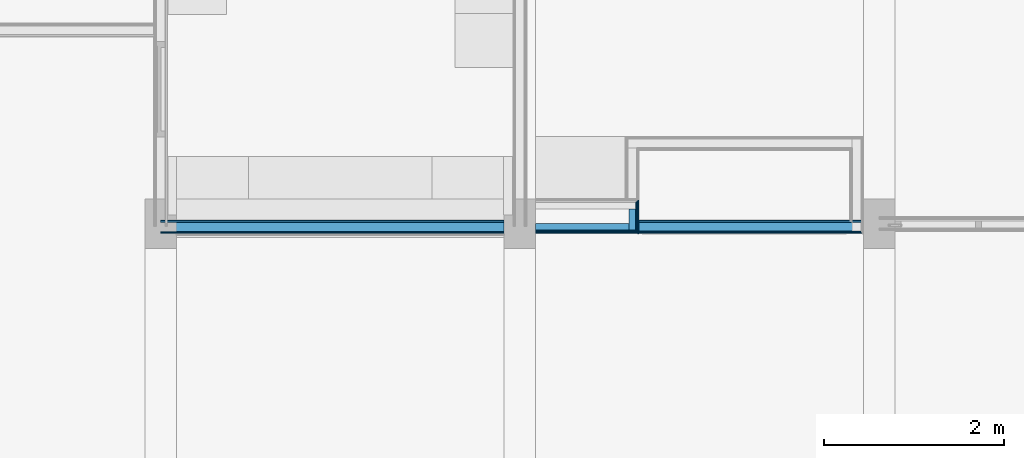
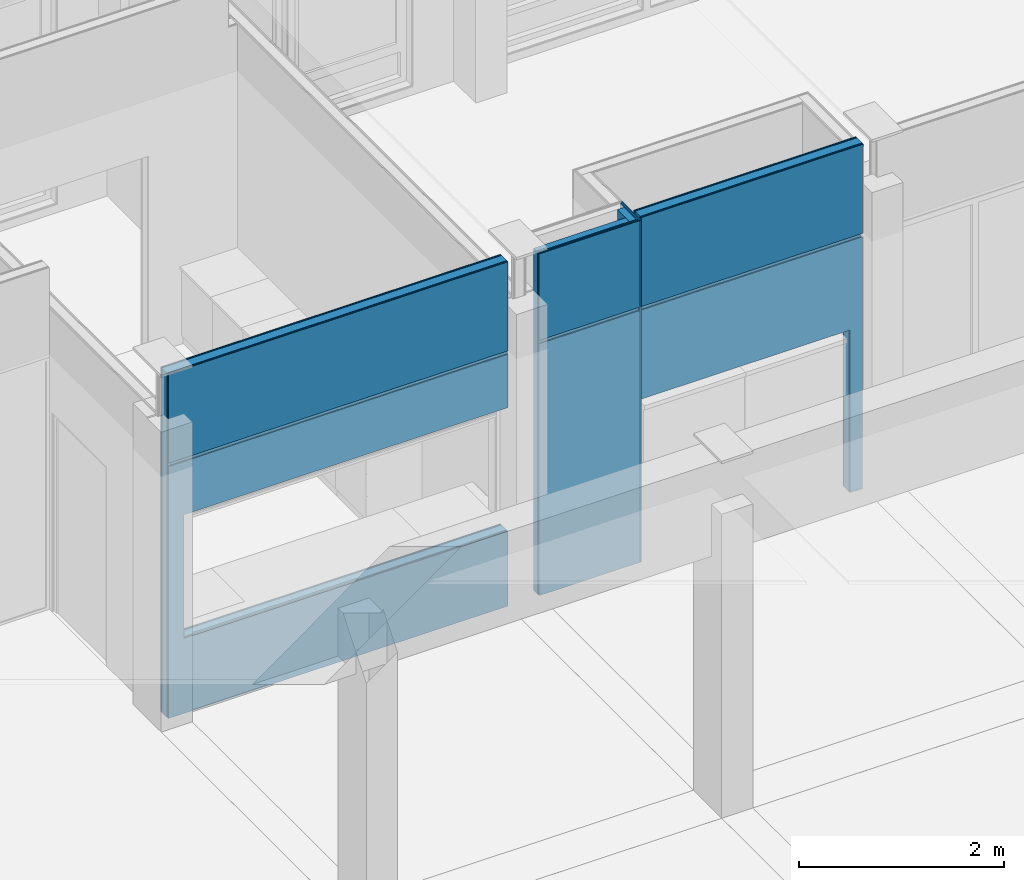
# One storey, part 58 of 109: 18 building element parts, 2 openings, 4 elements without a shape of their own.
"""IFC2X3 building model written with IfcOpenShell, lengths in millimetres."""

from ifc_helpers import new_model, entity, si_unit, converted_unit, derived_unit, money_unit, direction, frame, origin_with_axes, place, context, subcontext, project, spatial, faceted_brep, material, type_object, element, aggregate, save


model = new_model("IFC2X3")

# Units and contexts
model_context = context("Model", 3, precision=0.01, world=origin_with_axes(), true_north=direction((0.0, 1.0)))
body_context = subcontext(model_context, "Body", "Model", "MODEL_VIEW")
ifc_project = project(units=[si_unit("LENGTHUNIT", "METRE", prefix="MILLI"), si_unit("AREAUNIT", "SQUARE_METRE"), si_unit("VOLUMEUNIT", "CUBIC_METRE"), converted_unit("PLANEANGLEUNIT", "DEGREE", entity("IfcPlaneAngleMeasure", 0.0174532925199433), si_unit("PLANEANGLEUNIT", "RADIAN"), dimensions=[0, 0, 0, 0, 0, 0, 0]), money_unit("EUR"), converted_unit("TIMEUNIT", "Year", entity("IfcTimeMeasure", 31557600.0), si_unit("TIMEUNIT", "SECOND"), dimensions=[0, 0, 1, 0, 0, 0, 0]), si_unit("MASSUNIT", "GRAM", prefix="KILO"), si_unit("THERMODYNAMICTEMPERATUREUNIT", "DEGREE_CELSIUS"), si_unit("LUMINOUSINTENSITYUNIT", "LUMEN"), si_unit("ENERGYUNIT", "JOULE", prefix="MEGA"), derived_unit("THERMALCONDUCTANCEUNIT", [(si_unit("POWERUNIT", "WATT"), 1), (si_unit("LENGTHUNIT", "METRE"), -1), (si_unit("THERMODYNAMICTEMPERATUREUNIT", "KELVIN"), -1)]), derived_unit("SPECIFICHEATCAPACITYUNIT", [(si_unit("ENERGYUNIT", "JOULE"), 1), (si_unit("MASSUNIT", "GRAM", prefix="KILO"), -1), (si_unit("THERMODYNAMICTEMPERATUREUNIT", "KELVIN"), -1)]), derived_unit("MASSDENSITYUNIT", [(si_unit("MASSUNIT", "GRAM", prefix="KILO"), 1), (si_unit("VOLUMEUNIT", "CUBIC_METRE"), -1)])], contexts=[model_context])

# Site, building, storey
site_placement = place(None, origin_with_axes())
site = spatial("IfcSite", under=ifc_project, at=site_placement, Name="<site naam>", CompositionType="ELEMENT")
building_placement = place(site_placement, origin_with_axes())
building = spatial("IfcBuilding", under=site, at=building_placement, Name="<Naam gebouw>", CompositionType="ELEMENT")
storey_placement = place(building_placement, origin_with_axes())
storey = spatial("IfcBuildingStorey", under=building, at=storey_placement, Name="00 Begane grond", CompositionType="ELEMENT", Elevation=0.0)

# Wall, opening, building element parts
wall_type_1 = type_object("IfcWallType", Name="MS-01 GF 150 ECO DGS/2.100.2.A 150", PredefinedType="NOTDEFINED")
wall_1_placement = place(storey_placement, frame((24000.00000000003, 11964.67036517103, 0.0), z_axis=(0.0, 0.0, 1.0), x_axis=(1.0, 0.0, 0.0)))
wall_1 = element("IfcWall", 1, at=wall_1_placement, inside=storey, type_object=wall_type_1, Name="22_Binnenwand_MS-01")
opening_1_placement = place(wall_1_placement, frame((2000.257627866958, 0.0, 894.0000000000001), z_axis=(0.0, 0.0, 1.0), x_axis=(1.0, 0.0, 0.0)))
element("IfcOpeningElement", 2, at=opening_1_placement, cuts=wall_1, Name="22__305", context=body_context, shape_type="Brep", body=[
    faceted_brep([(1825.257627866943, 75.99999999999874, 1471.0), (1825.257627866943, 75.99999999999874, 0.0), (-1825.257627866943, 75.99999999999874, 0.0), (-1825.257627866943, 75.99999999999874, 1471.0), (1825.257627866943, -75.99999999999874, 1471.0), (1825.257627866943, -75.99999999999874, 0.0), (-1825.257627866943, -75.99999999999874, 0.0), (-1825.257627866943, -75.99999999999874, 1471.0)], [[[0, 1, 2, 3]], [[4, 5, 1, 0]], [[5, 6, 2, 1]], [[6, 7, 3, 2]], [[7, 4, 0, 3]], [[6, 5, 4, 7]]]),
])
ifc_material_1 = material(Name="gipsplaat")
building_element_part_1_placement = place(wall_1_placement, origin_with_axes())
building_element_part_1 = element("IfcBuildingElementPart", 3, at=building_element_part_1_placement, material=ifc_material_1, Name="gipsplaat", context=body_context, shape_type="Brep", body=[
    faceted_brep([(3825.00000000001, 62.5, 3750.0), (3825.00000000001, 75.00000000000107, 3750.0), (3825.000000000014, 75.00000000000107, 4100.0), (3825.000000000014, 62.5, 4100.0), (175.0000000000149, 75.00000000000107, 3750.0), (175.0000000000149, 62.5, 3750.0), (175.0000000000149, 75.00000000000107, 3185.0), (3825.00000000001, 75.00000000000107, 3185.0), (3825.000000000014, 75.00000000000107, 0.0), (0.0, 74.99999999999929, 0.0), (0.0, 75.00000000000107, 4100.0), (0.0, 62.5, 4100.0), (0.0, 62.5, 0.0), (3825.000000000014, 62.5, 0.0), (3825.00000000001, 62.5, 3185.0), (175.0000000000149, 62.5, 3185.0)], [[[0, 1, 2, 3]], [[4, 1, 0, 5]], [[6, 7, 8, 9, 10, 2, 1, 4]], [[11, 3, 2, 10]], [[5, 0, 3, 11, 12, 13, 14, 15]], [[6, 4, 5, 15]], [[14, 7, 6, 15]], [[7, 14, 13, 8]], [[9, 8, 13, 12]], [[12, 11, 10, 9]]]),
])
building_element_part_2_placement = place(wall_1_placement, origin_with_axes())
building_element_part_2 = element("IfcBuildingElementPart", 4, at=building_element_part_2_placement, material=ifc_material_1, Name="gipsplaat", context=body_context, shape_type="Brep", body=[
    faceted_brep([(3825.00000000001, 50.00000000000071, 3750.0), (3825.00000000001, 62.5, 3750.0), (3825.000000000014, 62.5, 4100.0), (3825.000000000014, 50.00000000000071, 4100.0), (175.0000000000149, 62.5, 3750.0), (175.0000000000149, 50.00000000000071, 3750.0), (175.0000000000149, 62.5, 3185.0), (3825.00000000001, 62.5, 3185.0), (3825.000000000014, 62.5, 0.0), (0.0, 62.5, 0.0), (0.0, 62.5, 4100.0), (0.0, 50.00000000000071, 4100.0), (0.0, 50.00000000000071, 0.0), (3825.000000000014, 50.00000000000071, 0.0), (3825.00000000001, 50.00000000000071, 3185.0), (175.0000000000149, 50.00000000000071, 3185.0)], [[[0, 1, 2, 3]], [[4, 1, 0, 5]], [[6, 7, 8, 9, 10, 2, 1, 4]], [[11, 3, 2, 10]], [[5, 0, 3, 11, 12, 13, 14, 15]], [[6, 4, 5, 15]], [[14, 7, 6, 15]], [[7, 14, 13, 8]], [[9, 8, 13, 12]], [[12, 11, 10, 9]]]),
])
ifc_material_2 = material(Name="isolatie_steenwol LSW")
building_element_part_3_placement = place(wall_1_placement, origin_with_axes())
building_element_part_3 = element("IfcBuildingElementPart", 5, at=building_element_part_3_placement, material=ifc_material_2, Name="isolatie_steenwol LSW", context=body_context, shape_type="Brep", body=[
    faceted_brep([(3825.000000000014, -34.14980728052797, 3.000000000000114), (3825.000000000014, -34.14980728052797, 0.0), (3825.000000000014, 50.00000000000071, 0.0), (3825.00000000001, 50.00000000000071, 3185.0), (3825.00000000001, -39.67034672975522, 3185.0), (3825.00000000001, -39.67034672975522, 3750.0), (3825.00000000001, 50.00000000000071, 3750.0), (3825.000000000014, 50.00000000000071, 4100.0), (3825.000000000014, -49.99999999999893, 4100.0), (3825.000000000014, -49.99999999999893, 3.000000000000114), (0.0, -34.14980728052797, 3.000000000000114), (0.0, -34.14980728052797, 0.0), (0.0, 50.00000000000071, 0.0), (175.0000000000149, 50.00000000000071, 3185.0), (0.0, 50.00000000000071, 4100.0), (175.0000000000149, 50.00000000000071, 3750.0), (175.0000000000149, -39.67034672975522, 3185.0), (175.0000000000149, -39.67034672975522, 3750.0), (0.0, -49.99999999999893, 4100.0), (0.0, -50.00000000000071, 3.000000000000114)], [[[0, 1, 2, 3, 4, 5, 6, 7, 8, 9]], [[1, 0, 10, 11]], [[1, 11, 12, 2]], [[13, 3, 2, 12, 14, 7, 6, 15]], [[4, 3, 13, 16]], [[5, 4, 16, 17]], [[15, 6, 5, 17]], [[18, 8, 7, 14]], [[19, 9, 8, 18]], [[0, 9, 19, 10]], [[10, 19, 18, 14, 12, 11]], [[13, 15, 17, 16]]]),
])
building_element_part_4_placement = place(wall_1_placement, origin_with_axes())
building_element_part_4 = element("IfcBuildingElementPart", 6, at=building_element_part_4_placement, material=ifc_material_1, Name="gipsplaat", context=body_context, shape_type="Brep", body=[
    faceted_brep([(3825.000000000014, -74.99999999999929, 3.000000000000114), (3825.000000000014, -62.5, 3.000000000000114), (3825.000000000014, -62.5, 3000.0), (3825.000000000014, -74.99999999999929, 3000.0), (0.0, -62.5, 3.000000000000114), (0.0, -74.99999999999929, 3.000000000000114), (0.0, -62.5, 3000.0), (0.0, -74.99999999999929, 3000.0)], [[[0, 1, 2, 3]], [[4, 1, 0, 5]], [[1, 4, 6, 2]], [[3, 2, 6, 7]], [[5, 0, 3, 7]], [[4, 5, 7, 6]]]),
    faceted_brep([(3825.000000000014, -74.99999999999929, 3040.0), (3825.000000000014, -62.5, 3040.0), (3825.000000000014, -62.5, 4100.0), (3825.000000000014, -74.99999999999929, 4100.0), (0.0, -62.5, 3040.0), (0.0, -74.99999999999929, 3040.0), (0.0, -62.5, 4100.0), (0.0, -74.99999999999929, 4100.0)], [[[0, 1, 2, 3]], [[4, 1, 0, 5]], [[1, 4, 6, 2]], [[7, 3, 2, 6]], [[5, 0, 3, 7]], [[4, 5, 7, 6]]]),
])
building_element_part_5_placement = place(wall_1_placement, origin_with_axes())
building_element_part_5 = element("IfcBuildingElementPart", 7, at=building_element_part_5_placement, material=ifc_material_1, Name="gipsplaat", context=body_context, shape_type="Brep", body=[
    faceted_brep([(3825.000000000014, -62.5, 3.000000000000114), (3825.000000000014, -49.99999999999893, 3.000000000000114), (3825.000000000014, -49.99999999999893, 4100.0), (3825.000000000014, -62.5, 4100.0), (0.0, -50.00000000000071, 3.000000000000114), (0.0, -62.5, 3.000000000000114), (0.0, -49.99999999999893, 4100.0), (0.0, -62.5, 4100.0)], [[[0, 1, 2, 3]], [[4, 1, 0, 5]], [[1, 4, 6, 2]], [[7, 3, 2, 6]], [[5, 0, 3, 7]], [[4, 5, 7, 6]]]),
])
aggregate(wall_1, [building_element_part_1, building_element_part_2, building_element_part_3, building_element_part_4, building_element_part_5])

# Wall, building element parts
wall_type_2 = type_object("IfcWallType", Name="MS-04 GF 138 V/100.3.A 113", PredefinedType="NOTDEFINED")
wall_2_placement = place(storey_placement, frame((29324.86879634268, 12275.00000000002, 0.0), z_axis=(0.0, 0.0, 1.0), x_axis=(0.0, -1.0, 0.0)))
wall_2 = element("IfcWall", 8, at=wall_2_placement, inside=storey, type_object=wall_type_2, Name="22_Binnenwand_MS-04")
building_element_part_6_placement = place(wall_2_placement, origin_with_axes())
building_element_part_6 = element("IfcBuildingElementPart", 9, at=building_element_part_6_placement, material=ifc_material_1, Name="gipsplaat", context=body_context, shape_type="Brep", body=[
    faceted_brep([(344.4794421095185, 0.0, 3.000000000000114), (344.4794421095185, 0.0, 0.0), (12.49999999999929, 0.0, 0.0), (12.49999999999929, 0.0, 1900.0), (235.3296348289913, 0.0, 1900.0), (385.3296348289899, 0.0, 1900.0), (385.3296348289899, 0.0, 3.000000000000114), (344.4794421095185, -12.49999999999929, 3.000000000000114), (344.4794421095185, -12.49999999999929, 0.0), (12.49999999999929, -12.49999999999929, 0.0), (12.49999999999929, -0.3816610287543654, 1900.0), (12.49999999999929, -12.49999999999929, 4070.0), (12.49999999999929, 0.0, 4070.0), (12.49999999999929, 0.0, 1940.0), (12.49999999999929, -0.3816610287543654, 1940.0), (235.3296348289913, -0.3816610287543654, 1900.0), (385.3296348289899, -0.3816610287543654, 1900.0), (385.3296348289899, -12.49999999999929, 3.000000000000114), (385.3296348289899, -0.3816610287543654, 1940.0), (385.3296348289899, 0.0, 1940.0), (385.3296348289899, 0.0, 4070.0), (385.3296348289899, -12.49999999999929, 4070.0), (235.3296348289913, 0.0, 1940.0), (235.3296348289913, -0.3816610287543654, 1940.0)], [[[0, 1, 2, 3, 4, 5, 6]], [[1, 0, 7, 8]], [[1, 8, 9, 2]], [[10, 3, 2, 9, 11, 12, 13, 14]], [[15, 4, 3, 10]], [[5, 4, 15, 16]], [[17, 6, 5, 16, 18, 19, 20, 21]], [[0, 6, 17, 7]], [[7, 17, 21, 11, 9, 8]], [[21, 20, 12, 11]], [[19, 22, 13, 12, 20]], [[22, 23, 14, 13]], [[23, 15, 10, 14]], [[15, 23, 18, 16]], [[23, 22, 19, 18]]]),
])
building_element_part_7_placement = place(wall_2_placement, origin_with_axes())
building_element_part_7 = element("IfcBuildingElementPart", 10, at=building_element_part_7_placement, material=ifc_material_1, Name="gipsplaat", context=body_context, shape_type="Brep", body=[
    faceted_brep([(344.4794421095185, -24.99999999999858, 3.000000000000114), (344.4794421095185, -24.99999999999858, 0.0), (37.49999999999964, -24.99999999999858, 0.0), (37.49999999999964, -24.99999999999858, 4070.0), (360.3296348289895, -24.99999999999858, 4070.0), (360.3296348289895, -24.99999999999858, 3.000000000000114), (344.4794421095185, -37.50000000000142, 3.000000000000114), (344.4794421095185, -37.50000000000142, 0.0), (37.49999999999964, -37.50000000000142, 0.0), (37.49999999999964, -37.50000000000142, 4070.0), (360.3296348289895, -37.50000000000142, 4070.0), (360.3296348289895, -37.50000000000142, 3.000000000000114)], [[[0, 1, 2, 3, 4, 5]], [[1, 0, 6, 7]], [[1, 7, 8, 2]], [[8, 9, 3, 2]], [[10, 4, 3, 9]], [[11, 5, 4, 10]], [[0, 5, 11, 6]], [[6, 11, 10, 9, 8, 7]]]),
])
building_element_part_8_placement = place(wall_2_placement, origin_with_axes())
building_element_part_8 = element("IfcBuildingElementPart", 11, at=building_element_part_8_placement, material=ifc_material_1, Name="gipsplaat", context=body_context, shape_type="Brep", body=[
    faceted_brep([(344.4794421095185, -12.49999999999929, 3.000000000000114), (344.4794421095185, -12.49999999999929, 0.0), (25.00000000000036, -12.49999999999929, 0.0), (25.00000000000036, -12.49999999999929, 4070.0), (372.8296348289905, -12.49999999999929, 4070.0), (372.8296348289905, -12.49999999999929, 3.000000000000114), (344.4794421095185, -24.99999999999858, 3.000000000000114), (344.4794421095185, -24.99999999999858, 0.0), (25.00000000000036, -24.99999999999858, 0.0), (25.00000000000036, -24.99999999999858, 4070.0), (372.8296348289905, -24.99999999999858, 4070.0), (372.8296348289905, -24.99999999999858, 3.000000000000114)], [[[0, 1, 2, 3, 4, 5]], [[1, 0, 6, 7]], [[1, 7, 8, 2]], [[8, 9, 3, 2]], [[10, 4, 3, 9]], [[11, 5, 4, 10]], [[0, 5, 11, 6]], [[6, 11, 10, 9, 8, 7]]]),
])
building_element_part_9_placement = place(wall_2_placement, origin_with_axes())
building_element_part_9 = element("IfcBuildingElementPart", 12, at=building_element_part_9_placement, material=ifc_material_2, Name="isolatie_steenwol LSW", context=body_context, shape_type="Brep", body=[
    faceted_brep([(344.4794421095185, -37.50000000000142, 3.000000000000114), (344.4794421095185, -37.50000000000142, 0.0), (112.5000000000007, -37.50000000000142, 0.0), (112.5000000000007, -37.50000000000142, 4070.0), (347.8296348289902, -37.50000000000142, 4070.0), (347.8296348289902, -37.50000000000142, 3.000000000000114), (344.4794421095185, -112.5000000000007, 3.000000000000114), (344.4794421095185, -112.5000000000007, 0.0), (112.5000000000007, -112.5000000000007, 0.0), (112.5000000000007, -112.5000000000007, 4070.0), (347.8296348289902, -112.5000000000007, 4070.0), (347.8296348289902, -112.5000000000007, 3.000000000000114)], [[[0, 1, 2, 3, 4, 5]], [[1, 0, 6, 7]], [[1, 7, 8, 2]], [[8, 9, 3, 2]], [[10, 4, 3, 9]], [[11, 5, 4, 10]], [[0, 5, 11, 6]], [[6, 11, 10, 9, 8, 7]]]),
])
aggregate(wall_2, [building_element_part_6, building_element_part_7, building_element_part_8, building_element_part_9])

# Wall, opening, building element parts
wall_3_placement = place(storey_placement, frame((29324.86879634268, 11964.67036517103, 0.0), z_axis=(0.0, 0.0, 1.0), x_axis=(1.0, 0.0, 0.0)))
wall_3 = element("IfcWall", 13, at=wall_3_placement, inside=storey, type_object=wall_type_1, Name="22_Binnenwand_MS-01")
opening_2_placement = place(wall_3_placement, frame((1174.565983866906, 0.0, 0.0), z_axis=(0.0, 0.0, 1.0), x_axis=(1.0, 0.0, 0.0)))
element("IfcOpeningElement", 14, at=opening_2_placement, cuts=wall_3, Name="22__305", context=body_context, shape_type="Brep", body=[
    faceted_brep([(1174.947644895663, 75.99999999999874, 1900.0), (1174.947644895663, 75.99999999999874, 0.0), (-1174.947644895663, 75.99999999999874, 0.0), (-1174.947644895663, 75.99999999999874, 1900.0), (1174.947644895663, -75.99999999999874, 1900.0), (1174.947644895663, -75.99999999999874, 0.0), (-1174.947644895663, -75.99999999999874, 0.0), (-1174.947644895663, -75.99999999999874, 1900.0)], [[[0, 1, 2, 3]], [[4, 5, 1, 0]], [[5, 6, 2, 1]], [[6, 7, 3, 2]], [[7, 4, 0, 3]], [[6, 5, 4, 7]]]),
])
building_element_part_10_placement = place(wall_3_placement, origin_with_axes())
building_element_part_10 = element("IfcBuildingElementPart", 15, at=building_element_part_10_placement, material=ifc_material_1, Name="gipsplaat", context=body_context, shape_type="Brep", body=[
    faceted_brep([(0.0, 74.99999999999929, 1900.0), (2349.513628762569, 74.99999999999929, 1900.0), (2349.513628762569, 74.99999999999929, 0.0), (0.0, 74.99999999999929, 0.0), (2349.513628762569, 62.5, 1900.0), (0.0, 62.5, 1900.0), (2349.513628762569, 62.5, 0.0), (0.0, 62.5, 0.0)], [[[0, 1, 2, 3]], [[4, 1, 0, 5]], [[1, 4, 6, 2]], [[6, 7, 3, 2]], [[5, 0, 3, 7]], [[4, 5, 7, 6]]]),
    faceted_brep([(2349.513628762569, 62.5, 1940.0), (2349.513628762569, 74.99999999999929, 1940.0), (2349.513628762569, 74.99999999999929, 4070.0), (2349.513628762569, 62.5, 4070.0), (0.0, 74.99999999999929, 1940.0), (0.0, 62.5, 1940.0), (0.0, 74.99999999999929, 4070.0), (0.0, 74.99999999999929, 4100.000000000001), (2499.513628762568, 74.99999999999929, 4100.000000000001), (2499.513628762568, 74.99999999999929, 4070.0), (2499.513628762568, 62.5, 4070.0), (2499.513628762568, 62.5, 4100.000000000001), (0.0, 62.5, 4100.000000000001), (0.0, 62.5, 4070.0)], [[[0, 1, 2, 3]], [[4, 1, 0, 5]], [[1, 4, 6, 7, 8, 9, 2]], [[10, 3, 2, 9]], [[5, 0, 3, 10, 11, 12, 13]], [[4, 5, 13, 6]], [[7, 6, 13, 12]], [[7, 12, 11, 8]], [[11, 10, 9, 8]]]),
])
building_element_part_11_placement = place(wall_3_placement, origin_with_axes())
building_element_part_11 = element("IfcBuildingElementPart", 16, at=building_element_part_11_placement, material=ifc_material_2, Name="isolatie_steenwol LSW", context=body_context, shape_type="Brep", body=[
    faceted_brep([(2374.513628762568, -34.14980728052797, 3.000000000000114), (2374.513628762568, -34.14980728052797, 0.0), (2374.513628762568, 50.00000000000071, 0.0), (2374.513628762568, 50.00000000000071, 4070.0), (2374.513628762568, -50.00000000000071, 4070.0), (2374.513628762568, -50.00000000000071, 3.000000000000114), (0.0, -34.14980728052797, 3.000000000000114), (0.0, -34.14980728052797, 0.0), (0.0, 50.00000000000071, 0.0), (0.0, 50.00000000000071, 1900.0), (2349.513628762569, 50.00000000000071, 1900.0), (2349.513628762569, 50.00000000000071, 1940.0), (0.0, 50.00000000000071, 1940.0), (0.0, 50.00000000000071, 4070.0), (0.0, 50.00000000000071, 4100.000000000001), (2499.513628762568, 50.00000000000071, 4100.000000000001), (2499.513628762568, 50.00000000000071, 4070.0), (2499.513628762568, -50.00000000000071, 4070.0), (0.0, -50.00000000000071, 3.000000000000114), (2499.513628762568, -50.00000000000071, 4100.000000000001), (0.0, -50.00000000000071, 4100.000000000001), (0.0, -50.00000000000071, 4070.0), (0.0, -50.00000000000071, 1940.0), (2349.513628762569, -50.00000000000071, 1940.0), (2349.513628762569, -50.00000000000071, 1900.0), (0.0, -50.00000000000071, 1900.0)], [[[0, 1, 2, 3, 4, 5]], [[1, 0, 6, 7]], [[1, 7, 8, 2]], [[9, 10, 11, 12, 13, 14, 15, 16, 3, 2, 8]], [[17, 4, 3, 16]], [[18, 5, 4, 17, 19, 20, 21, 22, 23, 24, 25]], [[0, 5, 18, 6]], [[6, 18, 25, 9, 8, 7]], [[10, 9, 25, 24]], [[11, 10, 24, 23]], [[12, 11, 23, 22]], [[12, 22, 21, 13]], [[14, 13, 21, 20]], [[14, 20, 19, 15]], [[19, 17, 16, 15]]]),
])
building_element_part_12_placement = place(wall_3_placement, origin_with_axes())
building_element_part_12 = element("IfcBuildingElementPart", 17, at=building_element_part_12_placement, material=ifc_material_1, Name="gipsplaat", context=body_context, shape_type="Brep", body=[
    faceted_brep([(0.0, 62.5, 1900.0), (2349.513628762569, 62.5, 1900.0), (2349.513628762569, 62.5, 1940.0), (0.0, 62.5, 1940.0), (0.0, 62.5, 4070.0), (0.0, 62.5, 4100.000000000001), (2499.513628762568, 62.5, 4100.000000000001), (2499.513628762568, 62.5, 4070.0), (2362.013628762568, 62.5, 4070.0), (2362.013628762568, 62.5, 0.0), (0.0, 62.5, 0.0), (0.0, 50.00000000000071, 1900.0), (2349.513628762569, 50.00000000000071, 1900.0), (2349.513628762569, 50.00000000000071, 1940.0), (0.0, 50.00000000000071, 1940.0), (0.0, 50.00000000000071, 4070.0), (0.0, 50.00000000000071, 4100.000000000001), (2499.513628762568, 50.00000000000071, 4100.000000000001), (2499.513628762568, 50.00000000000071, 4070.0), (2362.013628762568, 50.00000000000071, 4070.0), (2362.013628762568, 50.00000000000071, 0.0), (0.0, 50.00000000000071, 0.0)], [[[0, 1, 2, 3, 4, 5, 6, 7, 8, 9, 10]], [[1, 0, 11, 12]], [[2, 1, 12, 13]], [[3, 2, 13, 14]], [[3, 14, 15, 4]], [[5, 4, 15, 16]], [[5, 16, 17, 6]], [[17, 18, 7, 6]], [[18, 19, 8, 7]], [[20, 9, 8, 19]], [[20, 21, 10, 9]], [[11, 0, 10, 21]], [[12, 11, 21, 20, 19, 18, 17, 16, 15, 14, 13]]]),
])
building_element_part_13_placement = place(wall_3_placement, origin_with_axes())
building_element_part_13 = element("IfcBuildingElementPart", 18, at=building_element_part_13_placement, material=ifc_material_1, Name="gipsplaat", context=body_context, shape_type="Brep", body=[
    faceted_brep([(2474.513628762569, -62.5, 3.000000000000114), (2474.513628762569, -50.00000000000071, 3.000000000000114), (2474.513628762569, -50.00000000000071, 4070.0), (2474.513628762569, -62.5, 4070.0), (0.0, -50.00000000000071, 3.000000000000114), (0.0, -62.5, 3.000000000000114), (0.0, -50.00000000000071, 1900.0), (2349.513628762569, -50.00000000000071, 1900.0), (2349.513628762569, -50.00000000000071, 1940.0), (0.0, -50.00000000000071, 1940.0), (0.0, -50.00000000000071, 4070.0), (0.0, -50.00000000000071, 4100.000000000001), (2499.513628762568, -50.00000000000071, 4100.000000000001), (2499.513628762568, -50.00000000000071, 4070.0), (2499.513628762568, -62.5, 4070.0), (2499.513628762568, -62.5, 4100.000000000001), (0.0, -62.5, 4100.000000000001), (0.0, -62.5, 4070.0), (0.0, -62.5, 1940.0), (2349.513628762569, -62.5, 1940.0), (2349.513628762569, -62.5, 1900.0), (0.0, -62.5, 1900.0)], [[[0, 1, 2, 3]], [[4, 1, 0, 5]], [[1, 4, 6, 7, 8, 9, 10, 11, 12, 13, 2]], [[14, 3, 2, 13]], [[5, 0, 3, 14, 15, 16, 17, 18, 19, 20, 21]], [[4, 5, 21, 6]], [[7, 6, 21, 20]], [[8, 7, 20, 19]], [[9, 8, 19, 18]], [[9, 18, 17, 10]], [[11, 10, 17, 16]], [[11, 16, 15, 12]], [[15, 14, 13, 12]]]),
])
building_element_part_14_placement = place(wall_3_placement, origin_with_axes())
building_element_part_14 = element("IfcBuildingElementPart", 19, at=building_element_part_14_placement, material=ifc_material_1, Name="gipsplaat", context=body_context, shape_type="Brep", body=[
    faceted_brep([(2487.013628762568, -74.99999999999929, 3.000000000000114), (2487.013628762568, -62.5, 3.000000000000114), (2487.013628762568, -62.5, 3000.0), (2487.013628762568, -74.99999999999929, 3000.0), (0.0, -62.5, 3.000000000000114), (0.0, -74.99999999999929, 3.000000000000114), (0.0, -62.5, 1900.0), (2349.513628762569, -62.5, 1900.0), (2349.513628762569, -62.5, 1940.0), (0.0, -62.5, 1940.0), (0.0, -62.5, 3000.0), (0.0, -74.99999999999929, 3000.0), (0.0, -74.99999999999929, 1940.0), (2349.513628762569, -74.99999999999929, 1940.0), (2349.513628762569, -74.99999999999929, 1900.0), (0.0, -74.99999999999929, 1900.0)], [[[0, 1, 2, 3]], [[4, 1, 0, 5]], [[1, 4, 6, 7, 8, 9, 10, 2]], [[3, 2, 10, 11]], [[5, 0, 3, 11, 12, 13, 14, 15]], [[4, 5, 15, 6]], [[7, 6, 15, 14]], [[8, 7, 14, 13]], [[9, 8, 13, 12]], [[9, 12, 11, 10]]]),
    faceted_brep([(2487.013628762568, -74.99999999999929, 3040.0), (2487.013628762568, -62.5, 3040.0), (2487.013628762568, -62.5, 4070.0), (2487.013628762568, -74.99999999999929, 4070.0), (0.0, -62.5, 3040.0), (0.0, -74.99999999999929, 3040.0), (0.0, -62.5, 4070.0), (0.0, -62.5, 4100.000000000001), (2499.513628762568, -62.5, 4100.000000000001), (2499.513628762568, -62.5, 4070.0), (2499.513628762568, -74.99999999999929, 4070.0), (2499.513628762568, -74.99999999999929, 4100.000000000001), (0.0, -74.99999999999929, 4100.000000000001), (0.0, -74.99999999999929, 4070.0)], [[[0, 1, 2, 3]], [[4, 1, 0, 5]], [[1, 4, 6, 7, 8, 9, 2]], [[3, 2, 9, 10]], [[5, 0, 3, 10, 11, 12, 13]], [[4, 5, 13, 6]], [[7, 6, 13, 12]], [[7, 12, 11, 8]], [[11, 10, 9, 8]]]),
])
aggregate(wall_3, [building_element_part_10, building_element_part_11, building_element_part_12, building_element_part_13, building_element_part_14])

# Wall, building element parts
wall_4_placement = place(storey_placement, frame((29324.86879634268, 11889.67036517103, 0.0), z_axis=(0.0, 0.0, 1.0), x_axis=(-1.0, 0.0, 0.0)))
wall_4 = element("IfcWall", 20, at=wall_4_placement, inside=storey, type_object=wall_type_2, Name="22_Binnenwand_MS-04")
building_element_part_15_placement = place(wall_4_placement, origin_with_axes())
building_element_part_15 = element("IfcBuildingElementPart", 21, at=building_element_part_15_placement, material=ifc_material_1, Name="gipsplaat", context=body_context, shape_type="Brep", body=[
    faceted_brep([(12.49999999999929, 0.0, 3.000000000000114), (12.49999999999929, -12.49999999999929, 3.000000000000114), (12.49999999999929, -12.49999999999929, 3000.0), (12.49999999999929, 0.0, 3000.0), (1149.868796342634, -12.49999999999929, 3.000000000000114), (1149.868796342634, 0.0, 3.000000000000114), (1149.868796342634, -12.49999999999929, 3000.0), (1149.868796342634, 0.0, 3000.0)], [[[0, 1, 2, 3]], [[4, 1, 0, 5]], [[1, 4, 6, 2]], [[3, 2, 6, 7]], [[5, 0, 3, 7]], [[4, 5, 7, 6]]]),
    faceted_brep([(12.49999999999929, 0.0, 3040.0), (12.49999999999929, -12.49999999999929, 3040.0), (12.49999999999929, -12.49999999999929, 4070.0), (12.49999999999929, 0.0, 4070.0), (1149.868796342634, -12.49999999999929, 3040.0), (1149.868796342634, 0.0, 3040.0), (1149.868796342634, -12.49999999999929, 4070.0), (1149.868796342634, 0.0, 4070.0)], [[[0, 1, 2, 3]], [[4, 1, 0, 5]], [[1, 4, 6, 2]], [[2, 6, 7, 3]], [[5, 0, 3, 7]], [[4, 5, 7, 6]]]),
])
building_element_part_16_placement = place(wall_4_placement, origin_with_axes())
building_element_part_16 = element("IfcBuildingElementPart", 22, at=building_element_part_16_placement, material=ifc_material_1, Name="gipsplaat", context=body_context, shape_type="Brep", body=[
    faceted_brep([(37.50000000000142, -25.00000000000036, 3.000000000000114), (37.50000000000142, -37.49999999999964, 3.000000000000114), (37.50000000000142, -37.49999999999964, 4070.0), (37.50000000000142, -25.00000000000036, 4070.0), (1149.868796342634, -37.49999999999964, 3.000000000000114), (1149.868796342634, -25.00000000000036, 3.000000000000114), (1149.868796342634, -37.49999999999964, 4070.0), (1149.868796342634, -25.00000000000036, 4070.0)], [[[0, 1, 2, 3]], [[4, 1, 0, 5]], [[1, 4, 6, 2]], [[2, 6, 7, 3]], [[5, 0, 3, 7]], [[4, 5, 7, 6]]]),
])
building_element_part_17_placement = place(wall_4_placement, origin_with_axes())
building_element_part_17 = element("IfcBuildingElementPart", 23, at=building_element_part_17_placement, material=ifc_material_1, Name="gipsplaat", context=body_context, shape_type="Brep", body=[
    faceted_brep([(24.99999999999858, -12.49999999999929, 3.000000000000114), (24.99999999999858, -25.00000000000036, 3.000000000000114), (24.99999999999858, -25.00000000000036, 4070.0), (24.99999999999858, -12.49999999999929, 4070.0), (1149.868796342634, -25.00000000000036, 3.000000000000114), (1149.868796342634, -12.49999999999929, 3.000000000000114), (1149.868796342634, -25.00000000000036, 4070.0), (1149.868796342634, -12.49999999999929, 4070.0)], [[[0, 1, 2, 3]], [[4, 1, 0, 5]], [[1, 4, 6, 2]], [[2, 6, 7, 3]], [[5, 0, 3, 7]], [[4, 5, 7, 6]]]),
])
building_element_part_18_placement = place(wall_4_placement, origin_with_axes())
building_element_part_18 = element("IfcBuildingElementPart", 24, at=building_element_part_18_placement, material=ifc_material_2, Name="isolatie_steenwol LSW", context=body_context, shape_type="Brep", body=[
    faceted_brep([(112.5000000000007, -40.85019271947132, 3.000000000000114), (112.5000000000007, -40.85019271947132, 0.0), (112.5000000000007, -112.5000000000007, 0.0), (112.5000000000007, -112.4999999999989, 4070.0), (112.5000000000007, -37.49999999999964, 4070.0), (112.5000000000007, -37.49999999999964, 3.000000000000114), (1149.868796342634, -40.85019271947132, 3.000000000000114), (1149.868796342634, -40.85019271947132, 0.0), (1149.868796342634, -112.5000000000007, 0.0), (1149.868796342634, -112.5000000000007, 4070.0), (1149.868796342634, -37.49999999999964, 4070.0), (1149.868796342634, -37.49999999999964, 3.000000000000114)], [[[0, 1, 2, 3, 4, 5]], [[1, 0, 6, 7]], [[1, 7, 8, 2]], [[2, 8, 9, 3]], [[3, 9, 10, 4]], [[11, 5, 4, 10]], [[0, 5, 11, 6]], [[6, 11, 10, 9, 8, 7]]]),
])
aggregate(wall_4, [building_element_part_15, building_element_part_16, building_element_part_17, building_element_part_18])

save(model, "model.ifc")
